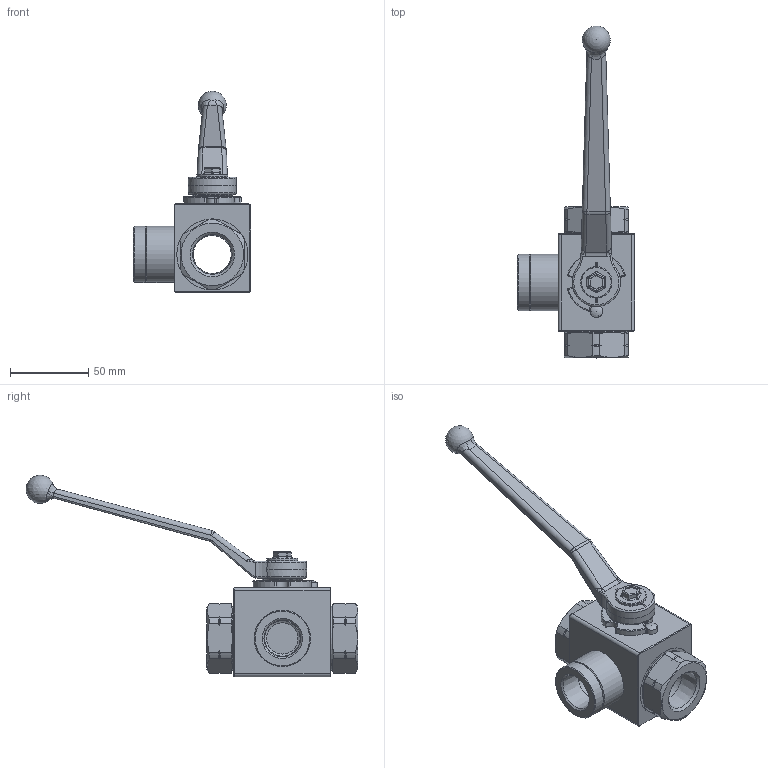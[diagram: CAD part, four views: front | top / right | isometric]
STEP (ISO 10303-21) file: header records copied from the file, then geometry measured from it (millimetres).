
FILE_DESCRIPTION( ( 'Unknown' ), '1' );
FILE_NAME( 'H:/PISTER/3D-MODELLE/BK3 stp/BK3 DN20 3_4 NPT.stp', 'Unknown', ( 'Unknown' ), ( 'Unknown' ), 'PSStep 14.0', 'Unknown', ' ' );
FILE_SCHEMA( ( 'AUTOMOTIVE_DESIGN { 1 0 10303 214 1 1 1 1 }' ) );
Length unit declared in the file: millimetre
Products named in the file (11): Assem1; 10-025-001; 06-020-146-oa7; 09-14-001; 58-28740-13-oa8; Griff_SW14; 58-0933-147; 04-020-103-oa9; 04-020-103-oa10; 01-020-026-oa11; 04-020-053-oa12
Assembly tree (10 placements, depth 2):
  Assem1
    10-025-001
    06-020-146-oa7
    09-14-001
    58-28740-13-oa8
    Griff_SW14
    58-0933-147
    04-020-103-oa9
    04-020-103-oa10
    01-020-026-oa11
    04-020-053-oa12
Bounding box: 75 x 212.23 x 128.9 mm (x, y, z)
Volume: 96766.7 mm3; surface area: 61686.8 mm2
Topology: 10 solids, 10 shells, 417 faces, 1062 edges, 654 vertices
Faces by surface type: cylinder 139, plane 128, cone 60, torus 40, bspline 36, sphere 14
Full cylindrical faces by diameter (mm): 5 x1, 6 x1, 6.5 x1, 7.98 x1, 20 x4, 20.2 x1, 22.789 x1, 24.239 x2, 25 x1, 36 x2, 36.1 x1, 38.3 x2, 41 x2, 45.5 x2
Entity records: 17304 total; most frequent: CARTESIAN_POINT 4318, DIRECTION 1993, ORIENTED_EDGE 1936, EDGE_CURVE 968, AXIS2_PLACEMENT_3D 821, VERTEX_POINT 631, EDGE_LOOP 496, FACE_OUTER_BOUND 448
